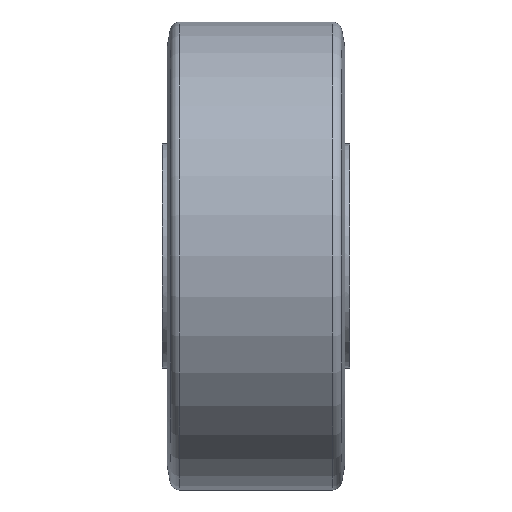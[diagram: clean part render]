
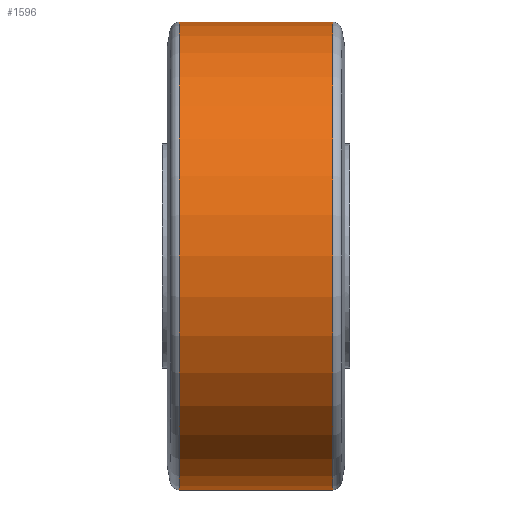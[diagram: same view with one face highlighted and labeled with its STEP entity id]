
A CAD part, front view. The second image highlights one B-rep face of the part: STEP entity #1596.
In plain terms, the highlighted cylindrical face has radius 50 mm (diameter 100 mm), a partial arc.
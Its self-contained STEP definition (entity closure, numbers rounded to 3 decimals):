
#34 = VERTEX_POINT ( 'NONE', #183 ) ;
#106 = LINE ( 'NONE', #617, #1298 ) ;
#183 = CARTESIAN_POINT ( 'NONE',  ( 16.352, 0., 50. ) ) ;
#425 = EDGE_LOOP ( 'NONE', ( #892, #1543, #1181, #1889 ) ) ;
#451 = DIRECTION ( 'NONE',  ( -1., 0., 0. ) ) ;
#543 = CARTESIAN_POINT ( 'NONE',  ( 0., 0., 50. ) ) ;
#617 = CARTESIAN_POINT ( 'NONE',  ( 0., 0., -50. ) ) ;
#638 = DIRECTION ( 'NONE',  ( -1., 0., 0. ) ) ;
#646 = FACE_OUTER_BOUND ( 'NONE', #425, .T. ) ;
#654 = CYLINDRICAL_SURFACE ( 'NONE', #1416, 50. ) ;
#668 = CARTESIAN_POINT ( 'NONE',  ( 0., 0., 0. ) ) ;
#718 = CARTESIAN_POINT ( 'NONE',  ( -16.352, 0., 0. ) ) ;
#826 = DIRECTION ( 'NONE',  ( 0., 0., 1. ) ) ;
#880 = VERTEX_POINT ( 'NONE', #1669 ) ;
#889 = EDGE_CURVE ( 'NONE', #34, #1582, #1038, .T. ) ;
#892 = ORIENTED_EDGE ( 'NONE', *, *, #1474, .F. ) ;
#912 = EDGE_CURVE ( 'NONE', #1022, #1582, #1490, .T. ) ;
#932 = CARTESIAN_POINT ( 'NONE',  ( 16.352, 0., 0. ) ) ;
#958 = AXIS2_PLACEMENT_3D ( 'NONE', #932, #451, #2007 ) ;
#1022 = VERTEX_POINT ( 'NONE', #1420 ) ;
#1038 = LINE ( 'NONE', #543, #1458 ) ;
#1058 = DIRECTION ( 'NONE',  ( -1., 0., 0. ) ) ;
#1088 = CIRCLE ( 'NONE', #958, 50. ) ;
#1181 = ORIENTED_EDGE ( 'NONE', *, *, #889, .T. ) ;
#1281 = DIRECTION ( 'NONE',  ( 0., 0., 1. ) ) ;
#1298 = VECTOR ( 'NONE', #1058, 1000. ) ;
#1416 = AXIS2_PLACEMENT_3D ( 'NONE', #668, #638, #1281 ) ;
#1420 = CARTESIAN_POINT ( 'NONE',  ( -16.352, 0., -50. ) ) ;
#1458 = VECTOR ( 'NONE', #1654, 1000. ) ;
#1474 = EDGE_CURVE ( 'NONE', #880, #1022, #106, .T. ) ;
#1490 = CIRCLE ( 'NONE', #1955, 50. ) ;
#1543 = ORIENTED_EDGE ( 'NONE', *, *, #1844, .T. ) ;
#1580 = CARTESIAN_POINT ( 'NONE',  ( -16.352, 0., 50. ) ) ;
#1582 = VERTEX_POINT ( 'NONE', #1580 ) ;
#1596 = ADVANCED_FACE ( 'NONE', ( #646 ), #654, .T. ) ;
#1654 = DIRECTION ( 'NONE',  ( -1., 0., 0. ) ) ;
#1669 = CARTESIAN_POINT ( 'NONE',  ( 16.352, 0., -50. ) ) ;
#1844 = EDGE_CURVE ( 'NONE', #880, #34, #1088, .T. ) ;
#1889 = ORIENTED_EDGE ( 'NONE', *, *, #912, .F. ) ;
#1938 = DIRECTION ( 'NONE',  ( -1., 0., 0. ) ) ;
#1955 = AXIS2_PLACEMENT_3D ( 'NONE', #718, #1938, #826 ) ;
#2007 = DIRECTION ( 'NONE',  ( 0., 0., 1. ) ) ;
